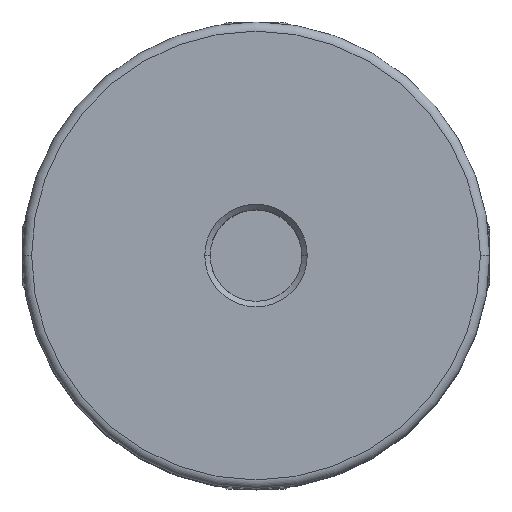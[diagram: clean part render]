
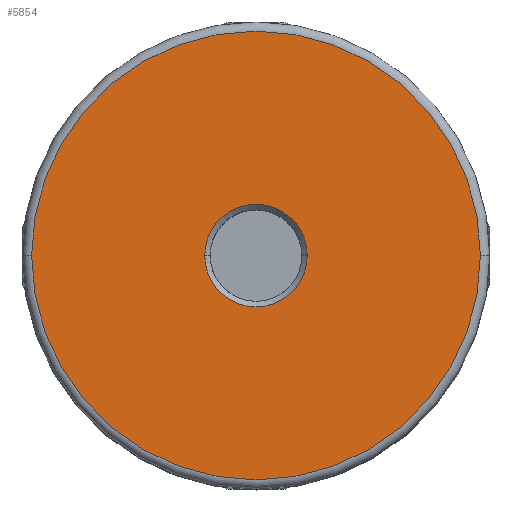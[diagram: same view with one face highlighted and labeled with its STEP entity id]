
A CAD part, top view. The second image highlights one B-rep face of the part: STEP entity #5854.
In plain terms, the highlighted planar face has unit normal (0, 0, 1).
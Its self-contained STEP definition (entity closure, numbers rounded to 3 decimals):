
#272 = ORIENTED_EDGE ( 'NONE', *, *, #5696, .T. ) ;
#275 = ORIENTED_EDGE ( 'NONE', *, *, #5982, .T. ) ;
#295 = ORIENTED_EDGE ( 'NONE', *, *, #5861, .T. ) ;
#389 = ORIENTED_EDGE ( 'NONE', *, *, #5822, .T. ) ;
#787 = CARTESIAN_POINT ( 'NONE',  ( 12.25, 0., 12.7 ) ) ;
#902 = CARTESIAN_POINT ( 'NONE',  ( -12.25, 0., 12.7 ) ) ;
#929 = CARTESIAN_POINT ( 'NONE',  ( 2.8, 0., 12.7 ) ) ;
#934 = CARTESIAN_POINT ( 'NONE',  ( -2.8, 0., 12.7 ) ) ;
#1462 = CARTESIAN_POINT ( 'NONE',  ( 0., 0., 12.7 ) ) ;
#1469 = DIRECTION ( 'NONE',  ( 0., 0., 1. ) ) ;
#1470 = DIRECTION ( 'NONE',  ( -1., 0., 0. ) ) ;
#1841 = FACE_BOUND ( 'NONE', #2025, .T. ) ;
#1844 = FACE_OUTER_BOUND ( 'NONE', #2074, .T. ) ;
#1847 = AXIS2_PLACEMENT_3D ( 'NONE', #3042, #3043, #3044 ) ;
#1854 = AXIS2_PLACEMENT_3D ( 'NONE', #3071, #3072, #3073 ) ;
#2025 = EDGE_LOOP ( 'NONE', ( #295, #389 ) ) ;
#2074 = EDGE_LOOP ( 'NONE', ( #275, #272 ) ) ;
#2144 = VERTEX_POINT ( 'NONE', #787 ) ;
#2357 = CARTESIAN_POINT ( 'NONE',  ( 0., 0., 12.7 ) ) ;
#2358 = DIRECTION ( 'NONE',  ( 0., 0., 1. ) ) ;
#2359 = DIRECTION ( 'NONE',  ( -1., 0., 0. ) ) ;
#2916 = CARTESIAN_POINT ( 'NONE',  ( 0., 0., 12.7 ) ) ;
#2917 = DIRECTION ( 'NONE',  ( 0., 0., -1. ) ) ;
#2918 = DIRECTION ( 'NONE',  ( 0., 1., 0. ) ) ;
#3041 = PLANE ( 'NONE',  #1847 ) ;
#3042 = CARTESIAN_POINT ( 'NONE',  ( 0., 0., 12.7 ) ) ;
#3043 = DIRECTION ( 'NONE',  ( 0., 0., -1. ) ) ;
#3044 = DIRECTION ( 'NONE',  ( -1., 0., 0. ) ) ;
#3071 = CARTESIAN_POINT ( 'NONE',  ( 0., 0., 12.7 ) ) ;
#3072 = DIRECTION ( 'NONE',  ( 0., 0., -1. ) ) ;
#3073 = DIRECTION ( 'NONE',  ( 0., 1., 0. ) ) ;
#3433 = VERTEX_POINT ( 'NONE', #902 ) ;
#3460 = VERTEX_POINT ( 'NONE', #929 ) ;
#3465 = VERTEX_POINT ( 'NONE', #934 ) ;
#4573 = AXIS2_PLACEMENT_3D ( 'NONE', #2916, #2917, #2918 ) ;
#5346 = CIRCLE ( 'NONE', #6314, 12.25 ) ;
#5379 = CIRCLE ( 'NONE', #4573, 2.8 ) ;
#5401 = CIRCLE ( 'NONE', #1854, 2.8 ) ;
#5434 = CIRCLE ( 'NONE', #6153, 12.25 ) ;
#5696 = EDGE_CURVE ( 'NONE', #2144, #3433, #5346, .T. ) ;
#5822 = EDGE_CURVE ( 'NONE', #3465, #3460, #5379, .T. ) ;
#5854 = ADVANCED_FACE ( 'NONE', ( #1841, #1844 ), #3041, .F. ) ;
#5861 = EDGE_CURVE ( 'NONE', #3460, #3465, #5401, .T. ) ;
#5982 = EDGE_CURVE ( 'NONE', #3433, #2144, #5434, .T. ) ;
#6153 = AXIS2_PLACEMENT_3D ( 'NONE', #2357, #2358, #2359 ) ;
#6314 = AXIS2_PLACEMENT_3D ( 'NONE', #1462, #1469, #1470 ) ;
